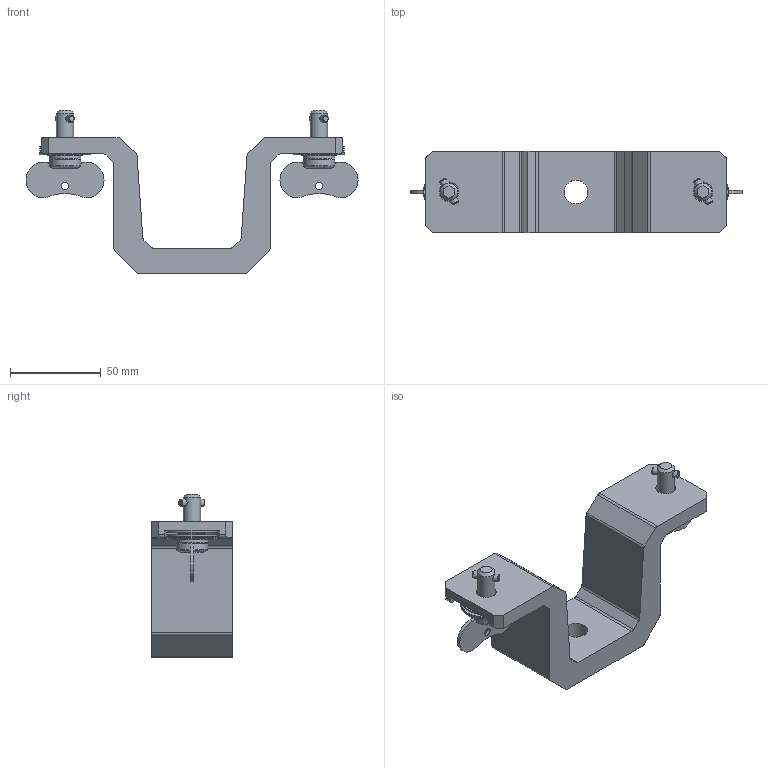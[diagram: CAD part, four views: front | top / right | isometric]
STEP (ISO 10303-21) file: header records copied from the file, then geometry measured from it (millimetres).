
FILE_DESCRIPTION(/* description */ ('Unknown'),/* implementation_level */ '2;1');
FILE_NAME(/* name */ '3D_Tall Omega Bracket',/* time_stamp */ '2020-09-23T12:32:25+02:00',/* author */ ('Ing.Rostislav HĂˇba'),/* organization */ ('ROBE lighting'),/* preprocessor_version */ 'ST-DEVELOPER v16.7',/* originating_system */ 'Solid Edge',/* authorisation */ 'Unknown');
FILE_SCHEMA (('AUTOMOTIVE_DESIGN {1 0 10303 214 3 1 1}'));
Length unit declared in the file: millimetre
Products named in the file (7): 99016260 Kotevní závìs Omega II s Camloc 9+; 17030135 Talíøová pružina 28; 17030152 Kolík 4x14 DIN1475; 18060288 Šroub CAMLOC 9+ s køidélkem; 18060287 Šroub CAMLOC 9+; 11010728-01 Køidelko CAMLOC 9; 19530458 Z嫛鮀 Omega II
Assembly tree (13 placements, depth 3):
  99016260 Kotevní závìs Omega II s Camloc 9+
    17030135 Talíøová pružina 28  x6
    17030152 Kolík 4x14 DIN1475  x2
    18060288 Šroub CAMLOC 9+ s køidélkem  x2
      18060287 Šroub CAMLOC 9+
      11010728-01 Køidelko CAMLOC 9
    19530458 Z嫛鮀 Omega II
Bounding box: 183 x 45 x 90 mm (x, y, z)
Volume: 158178.8 mm3; surface area: 46566.8 mm2
Topology: 13 solids, 13 shells, 175 faces, 432 edges, 285 vertices
Faces by surface type: plane 76, cylinder 67, cone 26, torus 6
Full cylindrical faces by diameter (mm): 4 x4, 4.2 x2, 9.5 x2, 10.2 x6, 11 x2, 13 x1, 17.5 x4, 28 x6
Entity records: 3377 total; most frequent: CARTESIAN_POINT 588, DIRECTION 576, ORIENTED_EDGE 500, EDGE_CURVE 250, AXIS2_PLACEMENT_3D 218, VERTEX_POINT 176, LINE 140, VECTOR 140
